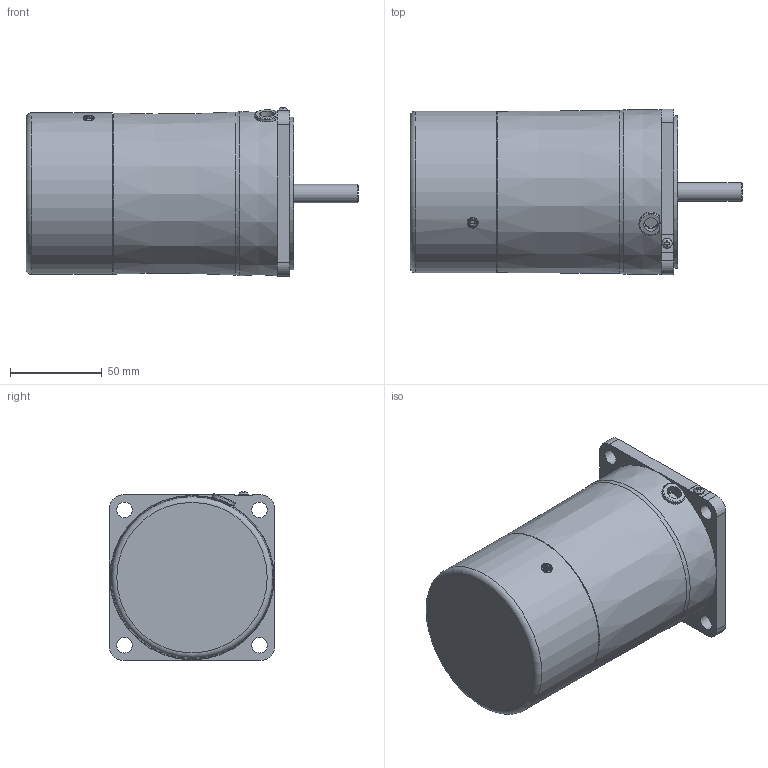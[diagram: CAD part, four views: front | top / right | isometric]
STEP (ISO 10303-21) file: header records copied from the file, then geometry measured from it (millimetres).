
FILE_DESCRIPTION(/* description */ (''),/* implementation_level */ '2;1');
FILE_NAME(/* name */ 'E:\도면작업\2016\0704) 미주향 SG 도면\3D MOTOR\ELECTROMAGNETIC BRAKE\SG9R(I)40S_-E.stp',/* time_stamp */ '2017-03-21T14:48:47+09:00',/* author */ ('jy-jung'),/* organization */ (''),/* preprocessor_version */ 'ST-DEVELOPER v15.6',/* originating_system */ 'Autodesk Inventor 2015',/* authorisation */ '');
FILE_SCHEMA (('AUTOMOTIVE_DESIGN { 1 0 10303 214 3 1 1 }'));
Length unit declared in the file: millimetre
Products named in the file (1): 부품23
Bounding box: 180.5 x 90 x 91.76 mm (x, y, z)
Volume: 883618.9 mm3; surface area: 60933.9 mm2
Topology: 1 solids, 2 shells, 105 faces, 265 edges, 179 vertices
Faces by surface type: plane 62, cylinder 33, torus 6, cone 3, bspline 1
Full cylindrical faces by diameter (mm): 3.1 x1, 4.6 x1, 5 x2, 5.6 x1, 6 x1, 8 x1, 8.5 x4, 10 x2, 40 x1, 83 x1, 86 x1, 87.8 x1
Entity records: 3271 total; most frequent: CARTESIAN_POINT 683, DIRECTION 506, ORIENTED_EDGE 458, EDGE_CURVE 229, AXIS2_PLACEMENT_3D 192, VERTEX_POINT 169, EDGE_LOOP 156, LINE 122
